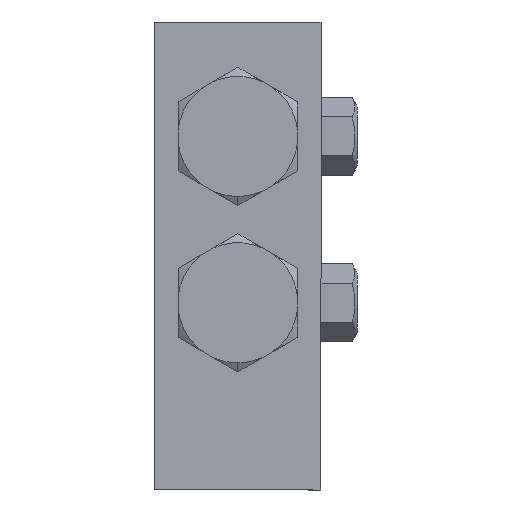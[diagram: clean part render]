
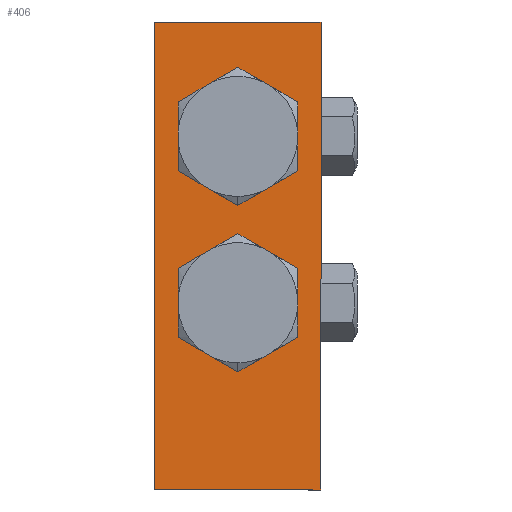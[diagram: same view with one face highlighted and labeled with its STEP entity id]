
A CAD part, front view. The second image highlights one B-rep face of the part: STEP entity #406.
In plain terms, the highlighted planar face has unit normal (0, -1, 0).
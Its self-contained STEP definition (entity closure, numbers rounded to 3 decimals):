
#78 = ORIENTED_EDGE ( 'NONE', *, *, #7932, .F. ) ;
#117 = AXIS2_PLACEMENT_3D ( 'NONE', #4638, #7874, #3296 ) ;
#287 = ORIENTED_EDGE ( 'NONE', *, *, #5026, .F. ) ;
#406 = ADVANCED_FACE ( 'NONE', ( #6875, #3906, #8088 ), #667, .F. ) ;
#667 = PLANE ( 'NONE',  #7121 ) ;
#698 = CARTESIAN_POINT ( 'NONE',  ( -23.141, -83.285, -32. ) ) ;
#761 = EDGE_CURVE ( 'NONE', #4065, #7625, #6563, .T. ) ;
#980 = LINE ( 'NONE', #7711, #7287 ) ;
#1077 = CARTESIAN_POINT ( 'NONE',  ( -39.141, -83.285, -68. ) ) ;
#1278 = DIRECTION ( 'NONE',  ( 0., 1., 0. ) ) ;
#1328 = CARTESIAN_POINT ( 'NONE',  ( -23.141, -83.285, -23. ) ) ;
#1394 = EDGE_CURVE ( 'NONE', #5634, #4065, #980, .T. ) ;
#1407 = VERTEX_POINT ( 'NONE', #6391 ) ;
#1473 = AXIS2_PLACEMENT_3D ( 'NONE', #2862, #7407, #8049 ) ;
#1672 = ORIENTED_EDGE ( 'NONE', *, *, #2882, .F. ) ;
#1828 = EDGE_CURVE ( 'NONE', #4192, #1407, #2557, .T. ) ;
#2189 = VERTEX_POINT ( 'NONE', #3513 ) ;
#2535 = DIRECTION ( 'NONE',  ( -1., 0., 0. ) ) ;
#2557 = CIRCLE ( 'NONE', #6303, 11. ) ;
#2593 = DIRECTION ( 'NONE',  ( 0., -1., 0. ) ) ;
#2862 = CARTESIAN_POINT ( 'NONE',  ( -23.141, -83.285, 0. ) ) ;
#2882 = EDGE_CURVE ( 'NONE', #2189, #5634, #7116, .T. ) ;
#2978 = ORIENTED_EDGE ( 'NONE', *, *, #1828, .F. ) ;
#3161 = ORIENTED_EDGE ( 'NONE', *, *, #1394, .F. ) ;
#3296 = DIRECTION ( 'NONE',  ( -1., 0., 0. ) ) ;
#3301 = CIRCLE ( 'NONE', #1473, 11. ) ;
#3513 = CARTESIAN_POINT ( 'NONE',  ( -39.141, -83.285, -68. ) ) ;
#3906 = FACE_BOUND ( 'NONE', #4953, .T. ) ;
#3922 = DIRECTION ( 'NONE',  ( 0., 0., 1. ) ) ;
#4003 = VECTOR ( 'NONE', #7698, 1000. ) ;
#4065 = VERTEX_POINT ( 'NONE', #6252 ) ;
#4139 = CARTESIAN_POINT ( 'NONE',  ( -34.141, -83.285, 0. ) ) ;
#4192 = VERTEX_POINT ( 'NONE', #6529 ) ;
#4243 = EDGE_CURVE ( 'NONE', #1407, #4192, #7196, .T. ) ;
#4506 = DIRECTION ( 'NONE',  ( 0., -1., 0. ) ) ;
#4513 = CARTESIAN_POINT ( 'NONE',  ( -23.141, -83.285, -32. ) ) ;
#4638 = CARTESIAN_POINT ( 'NONE',  ( -23.141, -83.285, 0. ) ) ;
#4887 = DIRECTION ( 'NONE',  ( -1., 0., 0. ) ) ;
#4953 = EDGE_LOOP ( 'NONE', ( #78, #6949 ) ) ;
#5026 = EDGE_CURVE ( 'NONE', #7625, #2189, #5028, .T. ) ;
#5028 = LINE ( 'NONE', #1077, #6564 ) ;
#5179 = DIRECTION ( 'NONE',  ( -1., 0., 0. ) ) ;
#5277 = VERTEX_POINT ( 'NONE', #4139 ) ;
#5339 = CARTESIAN_POINT ( 'NONE',  ( -39.141, -83.285, 22. ) ) ;
#5486 = EDGE_LOOP ( 'NONE', ( #2978, #7905 ) ) ;
#5634 = VERTEX_POINT ( 'NONE', #6492 ) ;
#5714 = AXIS2_PLACEMENT_3D ( 'NONE', #698, #4506, #5179 ) ;
#5796 = DIRECTION ( 'NONE',  ( 1., 0., 0. ) ) ;
#6168 = CARTESIAN_POINT ( 'NONE',  ( -7.141, -83.285, -68. ) ) ;
#6225 = CIRCLE ( 'NONE', #117, 11. ) ;
#6252 = CARTESIAN_POINT ( 'NONE',  ( -7.141, -83.285, 22. ) ) ;
#6303 = AXIS2_PLACEMENT_3D ( 'NONE', #4513, #2593, #2535 ) ;
#6391 = CARTESIAN_POINT ( 'NONE',  ( -12.141, -83.285, -32. ) ) ;
#6492 = CARTESIAN_POINT ( 'NONE',  ( -39.141, -83.285, 22. ) ) ;
#6529 = CARTESIAN_POINT ( 'NONE',  ( -34.141, -83.285, -32. ) ) ;
#6563 = LINE ( 'NONE', #7585, #4003 ) ;
#6564 = VECTOR ( 'NONE', #4887, 1000. ) ;
#6571 = EDGE_CURVE ( 'NONE', #6904, #5277, #3301, .T. ) ;
#6875 = FACE_BOUND ( 'NONE', #5486, .T. ) ;
#6904 = VERTEX_POINT ( 'NONE', #7278 ) ;
#6949 = ORIENTED_EDGE ( 'NONE', *, *, #6571, .F. ) ;
#7064 = EDGE_LOOP ( 'NONE', ( #287, #7646, #3161, #1672 ) ) ;
#7116 = LINE ( 'NONE', #5339, #7929 ) ;
#7121 = AXIS2_PLACEMENT_3D ( 'NONE', #1328, #1278, #7165 ) ;
#7165 = DIRECTION ( 'NONE',  ( 1., 0., 0. ) ) ;
#7196 = CIRCLE ( 'NONE', #5714, 11. ) ;
#7278 = CARTESIAN_POINT ( 'NONE',  ( -12.141, -83.285, 0. ) ) ;
#7287 = VECTOR ( 'NONE', #5796, 1000. ) ;
#7407 = DIRECTION ( 'NONE',  ( 0., -1., 0. ) ) ;
#7585 = CARTESIAN_POINT ( 'NONE',  ( -7.141, -83.285, 22. ) ) ;
#7625 = VERTEX_POINT ( 'NONE', #6168 ) ;
#7646 = ORIENTED_EDGE ( 'NONE', *, *, #761, .F. ) ;
#7698 = DIRECTION ( 'NONE',  ( 0., 0., -1. ) ) ;
#7711 = CARTESIAN_POINT ( 'NONE',  ( -39.141, -83.285, 22. ) ) ;
#7874 = DIRECTION ( 'NONE',  ( 0., -1., 0. ) ) ;
#7905 = ORIENTED_EDGE ( 'NONE', *, *, #4243, .F. ) ;
#7929 = VECTOR ( 'NONE', #3922, 1000. ) ;
#7932 = EDGE_CURVE ( 'NONE', #5277, #6904, #6225, .T. ) ;
#8049 = DIRECTION ( 'NONE',  ( -1., 0., 0. ) ) ;
#8088 = FACE_OUTER_BOUND ( 'NONE', #7064, .T. ) ;
